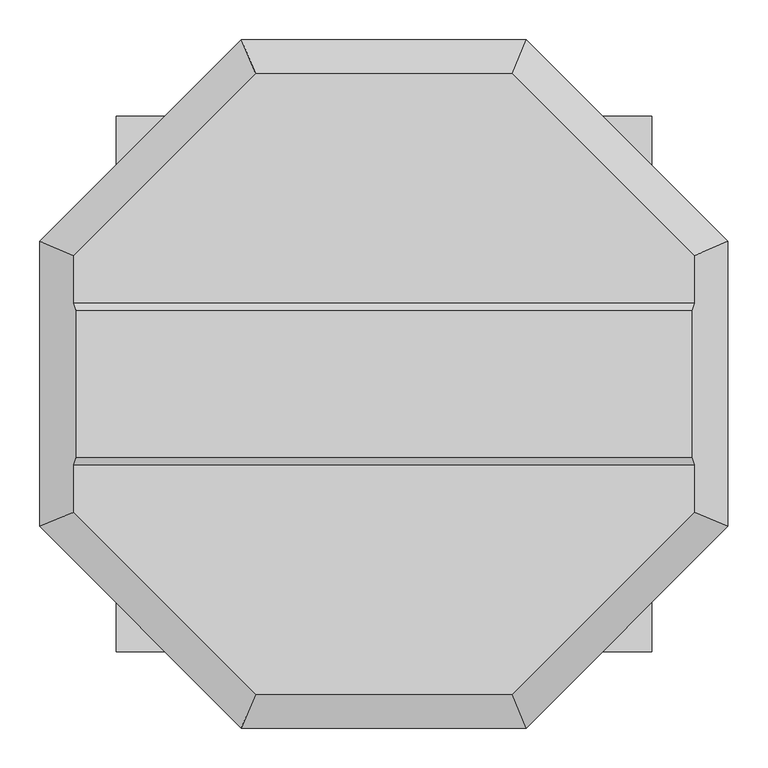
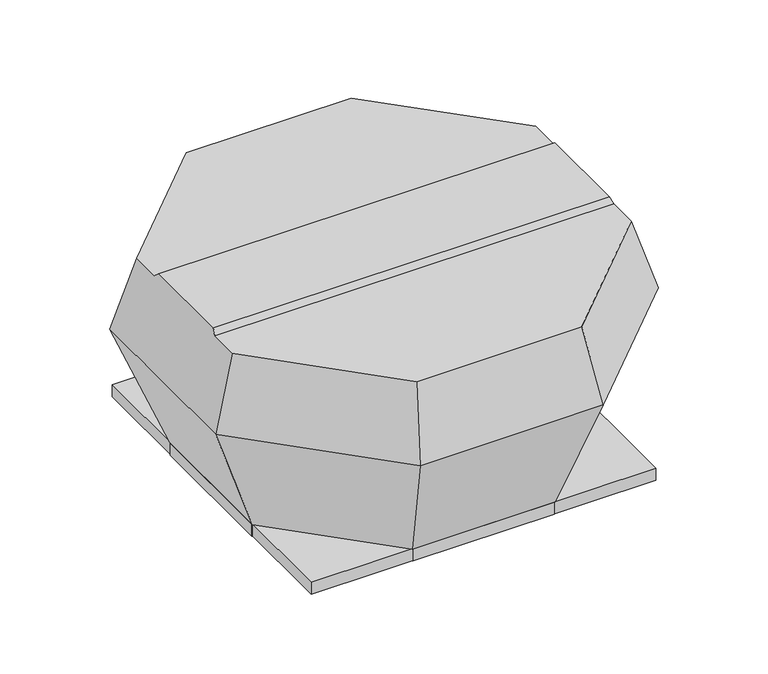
"""IFC4 building model written with IfcOpenShell, lengths in millimetres: unitary equipment geometry, VE-Wentylator-ParaForma-Harmann-VIVO-Wywiewny : 4-500/9200T."""

from ifc_helpers import new_model, si_unit, origin, place, context, project, spatial, faceted_brep, source, transform, mapped, element, save


def unitary_equipment_67b0fd10(model_context):
    return source(origin(), model_context, "Body", "Brep", [
        faceted_brep([(385.0711725, -91.75, 394.6), (385.0711725, 91.75, 394.6), (-385.0711725, 91.75, 394.6), (-385.0711725, -91.75, 394.6), (387.9641195, 101.3, 385.0), (-387.9641195, 101.3, 385.0), (387.9641195, -101.3, 385.0), (-387.9641195, -101.3, 385.0), (160.7, -387.9641195, 385.0), (387.9641195, -160.7, 385.0), (-387.9641195, -160.7, 385.0), (-160.7, -387.9641195, 385.0), (387.9641195, 160.7, 385.0), (160.7, 387.9641195, 385.0), (-160.7, 387.9641195, 385.0), (-387.9641195, 160.7, 385.0), (178.3, -430.4542782, 244.0), (430.4542782, -178.3, 244.0), (430.4542782, 178.3, 244.0), (178.3, 430.4542782, 244.0), (-178.3, 430.4542782, 244.0), (-430.4542782, 178.3, 244.0), (-430.4542782, -178.3, 244.0), (-178.3, -430.4542782, 244.0), (139.25, -336.1792386, 1.5), (-139.25, -336.1792386, 1.5), (-336.1792386, -139.25, 1.5), (-336.1792386, 139.25, 1.5), (-139.25, 336.1792386, 1.5), (139.25, 336.1792386, 1.5), (336.1792386, 139.25, 1.5), (336.1792386, -139.25, 1.5)], [[[0, 1, 2, 3]], [[1, 4, 5, 2]], [[6, 0, 3, 7]], [[8, 9, 6, 7, 10, 11]], [[12, 13, 14, 15, 5, 4]], [[9, 8, 16, 17]], [[9, 17, 18, 12, 4, 1, 0, 6]], [[13, 12, 18, 19]], [[14, 13, 19, 20]], [[15, 14, 20, 21]], [[15, 21, 22, 10, 7, 3, 2, 5]], [[11, 10, 22, 23]], [[8, 11, 23, 16]], [[24, 25, 26, 27, 28, 29, 30, 31]], [[24, 31, 17, 16]], [[31, 30, 18, 17]], [[30, 29, 19, 18]], [[29, 28, 20, 19]], [[28, 27, 21, 20]], [[27, 26, 22, 21]], [[26, 25, 23, 22]], [[25, 24, 16, 23]]]),
        faceted_brep([(333.55, 333.55, -23.5), (333.55, 333.55, 0.0), (-333.55, 333.55, 0.0), (-333.55, 333.55, -23.5), (335.05, 335.05, 1.5), (335.05, 335.05, -23.5), (-335.05, 335.05, -23.5), (-335.05, 335.05, 1.5), (-333.55, -333.55, 0.0), (-333.55, -333.55, -23.5), (-335.05, -335.05, -23.5), (-335.05, -335.05, 1.5), (333.55, -333.55, 0.0), (333.55, -333.55, -23.5), (335.05, -335.05, -23.5), (335.05, -335.05, 1.5)], [[[0, 1, 2, 3]], [[4, 5, 6, 7]], [[3, 2, 8, 9]], [[7, 6, 10, 11]], [[9, 8, 12, 13]], [[11, 10, 14, 15]], [[13, 12, 1, 0]], [[5, 14, 10, 6], [3, 9, 13, 0]], [[15, 14, 5, 4]], [[7, 11, 15, 4]], [[1, 12, 8, 2]]]),
        faceted_brep([(-335.1, -137.3, -23.5), (-336.1, -137.3, -23.5), (-336.1, 137.3, -23.5), (-335.1, 137.3, -23.5), (-335.1, -137.3, 1.5), (-335.1, 137.3, 1.5), (-336.1, 137.3, 1.5), (-336.1, -137.3, 1.5)], [[[0, 1, 2, 3]], [[4, 5, 6, 7]], [[1, 0, 4, 7]], [[2, 1, 7, 6]], [[3, 2, 6, 5]], [[0, 3, 5, 4]]]),
        faceted_brep([(336.1, -137.3, -23.5), (335.1, -137.3, -23.5), (335.1, 137.3, -23.5), (336.1, 137.3, -23.5), (336.1, 137.3, 1.5), (335.1, 137.3, 1.5), (335.1, 5.0, 1.5), (335.1, -5.0, 1.5), (335.1, -137.3, 1.5), (336.1, -137.3, 1.5), (336.1, -5.0, 1.5), (336.1, 5.0, 1.5)], [[[0, 1, 2, 3]], [[4, 5, 6, 7, 8, 9, 10, 11]], [[1, 0, 9, 8]], [[2, 1, 8, 7, 6, 5]], [[3, 2, 5, 4]], [[0, 3, 4, 11, 10, 9]]]),
        faceted_brep([(137.3, 335.1, -23.5), (-137.3, 335.1, -23.5), (-137.3, 336.1, -23.5), (137.3, 336.1, -23.5), (137.3, 335.1, 1.5), (137.3, 336.1, 1.5), (-137.3, 336.1, 1.5), (-137.3, 335.1, 1.5)], [[[0, 1, 2, 3]], [[4, 5, 6, 7]], [[1, 0, 4, 7]], [[2, 1, 7, 6]], [[3, 2, 6, 5]], [[0, 3, 5, 4]]]),
        faceted_brep([(137.3, -336.1, -23.5), (-137.3, -336.1, -23.5), (-137.3, -335.1, -23.5), (137.3, -335.1, -23.5), (137.3, -336.1, 1.5), (137.3, -335.1, 1.5), (-137.3, -335.1, 1.5), (-137.3, -336.1, 1.5)], [[[0, 1, 2, 3]], [[4, 5, 6, 7]], [[1, 0, 4, 7]], [[2, 1, 7, 6]], [[3, 2, 6, 5]], [[0, 3, 5, 4]]]),
    ])


if __name__ == "__main__":
    model = new_model("IFC4")
    model_context = context("Model", 3, world=origin())
    ifc_project = project(units=[si_unit("LENGTHUNIT", "METRE", prefix="MILLI")], contexts=[model_context])
    site = spatial("IfcSite", under=ifc_project)
    building = spatial("IfcBuilding", under=site)
    placement = place(None, origin())
    unitary_equipment_shape = unitary_equipment_67b0fd10(model_context)
    element("IfcUnitaryEquipment", 1, ObjectType="VE-Wentylator-ParaForma-Harmann-VIVO-Wywiewny : 4-500/9200T", at=placement, inside=building, context=model_context, shape_type="MappedRepresentation", body=[
        mapped(unitary_equipment_shape, transform((0.0, 0.0, 0.0), x_axis=(1.0, 0.0, 0.0), y_axis=(0.0, 1.0, 0.0), z_axis=(0.0, 0.0, 1.0))),
    ])
    save(model, "model.ifc")
